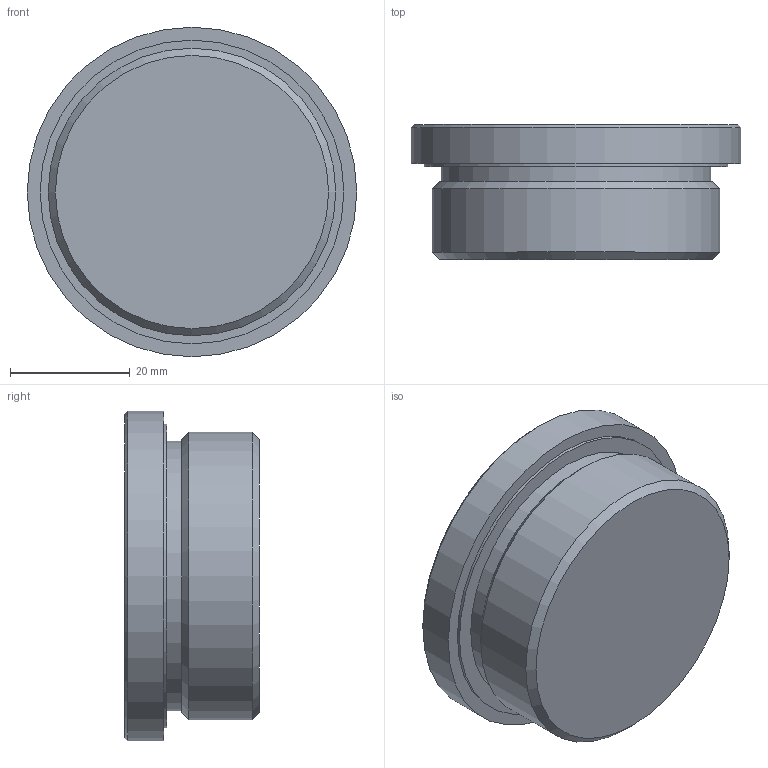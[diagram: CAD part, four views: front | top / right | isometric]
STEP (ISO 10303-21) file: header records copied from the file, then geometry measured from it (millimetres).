
FILE_DESCRIPTION( ( 'STEP AP203' ), '1' );
FILE_NAME( 'C:/Temp/Ganter_Step_05_03_2020/data/3_5/gn749/gn749_a/Threaded plug GN 749-M48x2-A.stp', '2020-03-12T13:41:37', ( 'License CC BY-ND 4.0' ), ( 'CADENAS' ), ' ', 'PARTsolutions', ' ' );
FILE_SCHEMA( ( 'CONFIG_CONTROL_DESIGN' ) );
Length unit declared in the file: millimetre
Products named in the file (1): _Threaded plug GN 749-M48x2-A
Bounding box: 55 x 22.5 x 55 mm (x, y, z)
Volume: 37717.5 mm3; surface area: 9579.4 mm2
Topology: 1 solids, 1 shells, 21 faces, 41 edges, 27 vertices
Faces by surface type: plane 13, cylinder 5, cone 3
Full cylindrical faces by diameter (mm): 45 x1, 45.4 x1, 48 x1, 50.7 x1, 55 x1
Entity records: 526 total; most frequent: DIRECTION 88, CARTESIAN_POINT 78, ORIENTED_EDGE 62, AXIS2_PLACEMENT_3D 35, EDGE_LOOP 34, EDGE_CURVE 31, FACE_OUTER_BOUND 26, VERTEX_POINT 25
